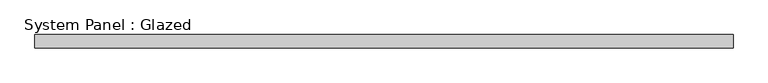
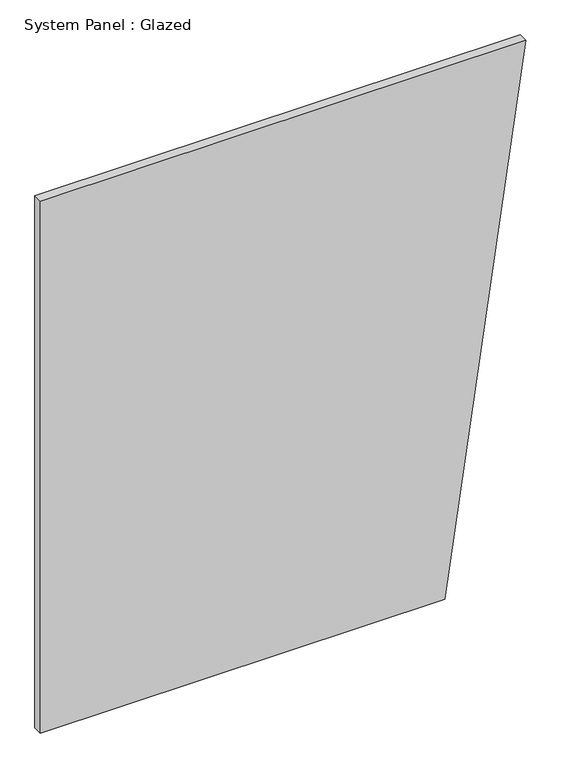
"""IFC4 building model written with IfcOpenShell, lengths in millimetres: plate geometry, System Panel : Glazed."""

from ifc_helpers import new_model, si_unit, frame, origin, place, context, project, spatial, polyline, outline, extrude, source, transform, mapped, element, save


def system_panel_glazed_48efdeb7(model_context):
    return source(origin(), model_context, "Body", "SweptSolid", [
        extrude(outline(polyline([(0.0, -657.8417266), (0.0, 438.5611511), (1524.0, 657.8417266), (1524.0, -657.8417266), (0.0, -657.8417266)])), frame((0.0, 19.05, 0.0), z_axis=(0.0, 1.0, 0.0), x_axis=(0.0, 0.0, 1.0)), (0.0, 0.0, 1.0), 25.4),
    ])


if __name__ == "__main__":
    model = new_model("IFC4")
    model_context = context("Model", 3, world=origin())
    ifc_project = project(units=[si_unit("LENGTHUNIT", "METRE", prefix="MILLI")], contexts=[model_context])
    site = spatial("IfcSite", under=ifc_project)
    building = spatial("IfcBuilding", under=site)
    placement = place(None, origin())
    system_panel_glazed_shape = system_panel_glazed_48efdeb7(model_context)
    element("IfcPlate", 1, ObjectType="System Panel : Glazed", at=placement, inside=building, context=model_context, shape_type="MappedRepresentation", body=[
        mapped(system_panel_glazed_shape, transform((0.0, 0.0, 0.0), x_axis=(1.0, 0.0, 0.0), y_axis=(0.0, 1.0, 0.0), z_axis=(0.0, 0.0, 1.0))),
    ])
    save(model, "model.ifc")
